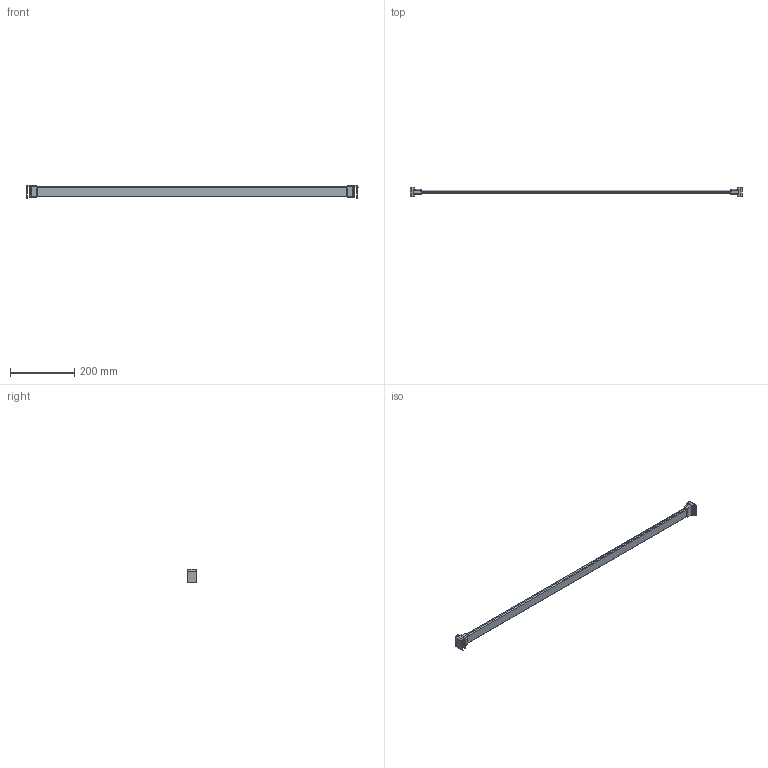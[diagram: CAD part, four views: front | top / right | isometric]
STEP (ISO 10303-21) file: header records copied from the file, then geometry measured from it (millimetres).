
FILE_DESCRIPTION (( 'STEP AP214' ), '1' );
FILE_NAME ('_Querreling_KAB-1100_KS-19_P602_Glashalter.step', '2010-08-26T14:58:57', ( 'grass' ), ( '' ), 'SwSTEP 2.0', 'SolidWorks 2009', '' );
FILE_SCHEMA (( 'AUTOMOTIVE_DESIGN' ));
Length unit declared in the file: millimetre
Products named in the file (1): _Querreling_KAB-1100_KS-19_P602_Glashalter
Bounding box: 1034.78 x 30 x 41.5 mm (x, y, z)
Volume: 334585.3 mm3; surface area: 88797.1 mm2
Topology: 1 solids, 1 shells, 124 faces, 300 edges, 176 vertices
Faces by surface type: cylinder 58, plane 34, torus 16, bspline 12, sphere 4
Entity records: 5090 total; most frequent: CARTESIAN_POINT 2269, ORIENTED_EDGE 592, DIRECTION 590, EDGE_CURVE 296, AXIS2_PLACEMENT_3D 225, VERTEX_POINT 176, LINE 140, VECTOR 140
